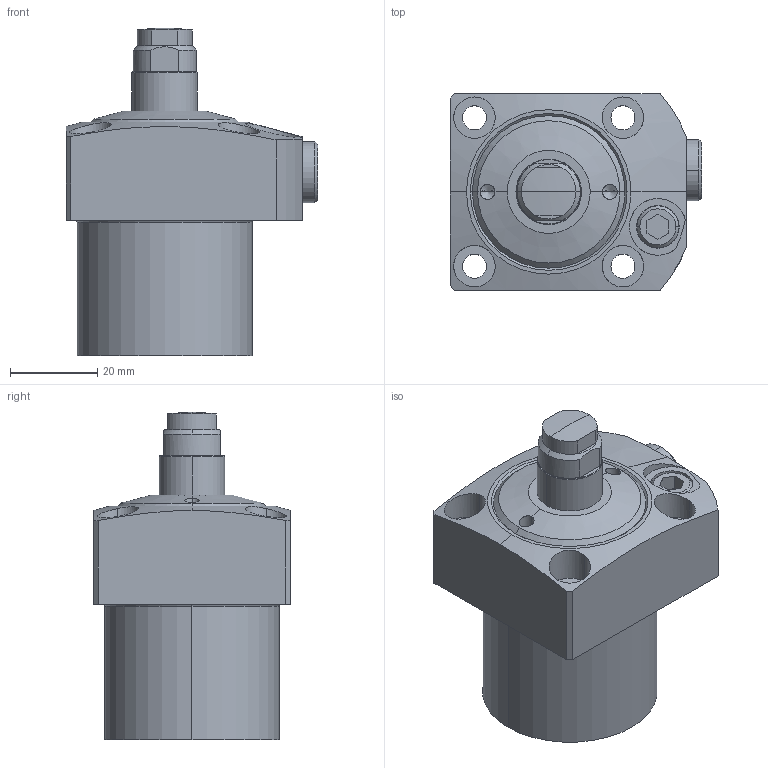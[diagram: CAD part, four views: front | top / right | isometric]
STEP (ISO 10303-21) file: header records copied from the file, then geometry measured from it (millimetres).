
FILE_DESCRIPTION(/* description */ (''),/* implementation_level */ '2;1');
FILE_NAME(/* name */ 'KFSS40.stp',/* time_stamp */ '2022-11-17T07:28:09+08:00',/* author */ (''),/* organization */ (''),/* preprocessor_version */ 'ST-DEVELOPER v16.7',/* originating_system */ 'SIEMENS PLM Software NX 12.0',/* authorisation */ '');
FILE_SCHEMA (('AP203_CONFIGURATION_CONTROLLED_3D_DESIGN_OF_MECHANICAL_PARTS_AND_ASSEMBLIES_MIM_LF { 1 0 10303 403 2 1 2}'));
Length unit declared in the file: millimetre
Products named in the file (5): KFSS40-01; KFSS40-04; KFSS40-03; KFSS40-02; LC0402-Cx-E_step
Assembly tree (4 placements, depth 2):
  LC0402-Cx-E_step
    KFSS40-02
    KFSS40-03
    KFSS40-04
    KFSS40-01
Bounding box: 57.5 x 45 x 75 mm (x, y, z)
Volume: 90883.3 mm3; surface area: 16916.3 mm2
Topology: 4 solids, 4 shells, 120 faces, 269 edges, 168 vertices
Faces by surface type: cylinder 46, plane 46, cone 24, sphere 2, torus 2
Entity records: 4089 total; most frequent: CARTESIAN_POINT 802, DIRECTION 605, ORIENTED_EDGE 530, EDGE_CURVE 265, AXIS2_PLACEMENT_3D 239, VERTEX_POINT 168, EDGE_LOOP 143, LINE 127
